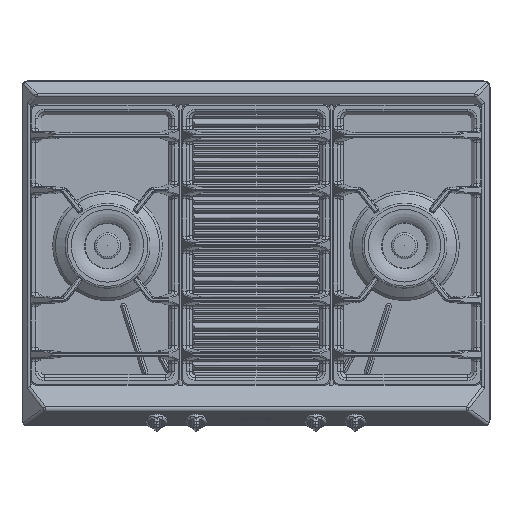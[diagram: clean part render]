
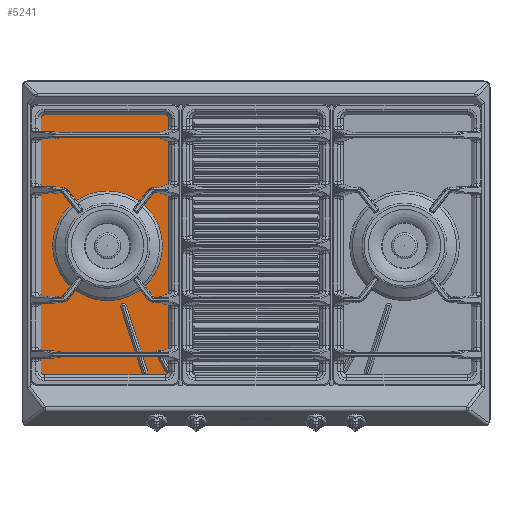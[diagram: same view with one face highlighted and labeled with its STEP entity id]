
A CAD part, top view. The second image highlights one B-rep face of the part: STEP entity #5241.
In plain terms, the highlighted planar face has unit normal (0, 0, 1).
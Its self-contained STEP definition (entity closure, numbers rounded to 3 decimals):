
#5241=ADVANCED_FACE('',(#6247,#6248,#6249,#6250),#5945,.T.);
#5945=PLANE('',#29955);
#6247=FACE_BOUND('',#7720,.T.);
#6248=FACE_BOUND('',#7721,.T.);
#6249=FACE_BOUND('',#7722,.T.);
#6250=FACE_BOUND('',#7723,.T.);
#7720=EDGE_LOOP('',(#14483,#14484,#14485,#14486));
#7721=EDGE_LOOP('',(#14487,#14488,#14489,#14490));
#7722=EDGE_LOOP('',(#14491));
#7723=EDGE_LOOP('',(#14492,#14493,#14494,#14495));
#14483=ORIENTED_EDGE('',*,*,#21647,.T.);
#14484=ORIENTED_EDGE('',*,*,#21637,.T.);
#14485=ORIENTED_EDGE('',*,*,#21641,.T.);
#14486=ORIENTED_EDGE('',*,*,#21644,.T.);
#14487=ORIENTED_EDGE('',*,*,#21661,.F.);
#14488=ORIENTED_EDGE('',*,*,#21662,.T.);
#14489=ORIENTED_EDGE('',*,*,#21663,.T.);
#14490=ORIENTED_EDGE('',*,*,#21664,.F.);
#14491=ORIENTED_EDGE('',*,*,#21665,.F.);
#14492=ORIENTED_EDGE('',*,*,#21649,.F.);
#14493=ORIENTED_EDGE('',*,*,#21659,.F.);
#14494=ORIENTED_EDGE('',*,*,#21656,.F.);
#14495=ORIENTED_EDGE('',*,*,#21653,.F.);
#17937=VERTEX_POINT('',#49838);
#17938=VERTEX_POINT('',#49839);
#17941=VERTEX_POINT('',#49847);
#17943=VERTEX_POINT('',#49853);
#17945=VERTEX_POINT('',#49863);
#17946=VERTEX_POINT('',#49864);
#17949=VERTEX_POINT('',#49872);
#17951=VERTEX_POINT('',#49878);
#17953=VERTEX_POINT('',#49888);
#17954=VERTEX_POINT('',#49889);
#17955=VERTEX_POINT('',#49891);
#17956=VERTEX_POINT('',#49893);
#17957=VERTEX_POINT('',#49896);
#21637=EDGE_CURVE('',#17937,#17938,#25021,.T.);
#21641=EDGE_CURVE('',#17938,#17941,#23379,.T.);
#21644=EDGE_CURVE('',#17941,#17943,#25026,.T.);
#21647=EDGE_CURVE('',#17943,#17937,#23381,.T.);
#21649=EDGE_CURVE('',#17945,#17946,#23383,.T.);
#21653=EDGE_CURVE('',#17946,#17949,#25031,.T.);
#21656=EDGE_CURVE('',#17949,#17951,#23385,.T.);
#21659=EDGE_CURVE('',#17951,#17945,#25035,.T.);
#21661=EDGE_CURVE('',#17953,#17954,#25037,.T.);
#21662=EDGE_CURVE('',#17953,#17955,#25038,.T.);
#21663=EDGE_CURVE('',#17955,#17956,#25039,.T.);
#21664=EDGE_CURVE('',#17954,#17956,#25040,.T.);
#21665=EDGE_CURVE('',#17957,#17957,#23387,.T.);
#23379=CIRCLE('',#29937,4.2);
#23381=CIRCLE('',#29941,4.2);
#23383=CIRCLE('',#29945,4.2);
#23385=CIRCLE('',#29949,4.2);
#23387=CIRCLE('',#29954,80.);
#25021=LINE('',#49837,#26870);
#25026=LINE('',#49852,#26875);
#25031=LINE('',#49871,#26880);
#25035=LINE('',#49883,#26884);
#25037=LINE('',#49887,#26886);
#25038=LINE('',#49890,#26887);
#25039=LINE('',#49892,#26888);
#25040=LINE('',#49894,#26889);
#26870=VECTOR('',#37287,1.);
#26875=VECTOR('',#37300,1.);
#26880=VECTOR('',#37321,1.);
#26884=VECTOR('',#37333,1.);
#26886=VECTOR('',#37339,1.);
#26887=VECTOR('',#37340,1.);
#26888=VECTOR('',#37341,1.);
#26889=VECTOR('',#37342,1.);
#29937=AXIS2_PLACEMENT_3D('',#49846,#37293,#37294);
#29941=AXIS2_PLACEMENT_3D('',#49858,#37305,#37306);
#29945=AXIS2_PLACEMENT_3D('',#49862,#37313,#37314);
#29949=AXIS2_PLACEMENT_3D('',#49877,#37326,#37327);
#29954=AXIS2_PLACEMENT_3D('',#49895,#37343,#37344);
#29955=AXIS2_PLACEMENT_3D('',#49897,#37345,#37346);
#37287=DIRECTION('',(-0.485,0.875,0.));
#37293=DIRECTION('',(0.,0.,-1.));
#37294=DIRECTION('',(1.,0.,0.));
#37300=DIRECTION('',(0.485,-0.875,0.));
#37305=DIRECTION('',(0.,0.,-1.));
#37306=DIRECTION('',(1.,0.,0.));
#37313=DIRECTION('',(0.,0.,1.));
#37314=DIRECTION('',(1.,0.,0.));
#37321=DIRECTION('',(0.309,-0.951,0.));
#37326=DIRECTION('',(0.,0.,1.));
#37327=DIRECTION('',(1.,0.,0.));
#37333=DIRECTION('',(-0.309,0.951,0.));
#37339=DIRECTION('',(0.,-1.,0.));
#37340=DIRECTION('',(-1.,0.,0.));
#37341=DIRECTION('',(0.,-1.,0.));
#37342=DIRECTION('',(-1.,0.,0.));
#37343=DIRECTION('',(0.,0.,1.));
#37344=DIRECTION('',(1.,0.,0.));
#37345=DIRECTION('',(0.,0.,1.));
#37346=DIRECTION('',(1.,0.,0.));
#49837=CARTESIAN_POINT('',(-139.564,77.715,57.866));
#49838=CARTESIAN_POINT('',(-139.564,77.715,57.866));
#49839=CARTESIAN_POINT('',(-152.702,101.417,57.866));
#49846=CARTESIAN_POINT('',(-149.029,103.453,57.866));
#49847=CARTESIAN_POINT('',(-145.355,105.489,57.866));
#49852=CARTESIAN_POINT('',(-145.355,105.489,57.866));
#49853=CARTESIAN_POINT('',(-132.217,81.787,57.866));
#49858=CARTESIAN_POINT('',(-135.89,79.751,57.866));
#49862=CARTESIAN_POINT('',(-200.927,172.502,57.866));
#49863=CARTESIAN_POINT('',(-196.932,173.8,57.866));
#49864=CARTESIAN_POINT('',(-204.921,171.204,57.866));
#49871=CARTESIAN_POINT('',(-204.921,171.204,57.866));
#49872=CARTESIAN_POINT('',(-173.485,74.453,57.866));
#49877=CARTESIAN_POINT('',(-169.49,75.751,57.866));
#49878=CARTESIAN_POINT('',(-165.496,77.049,57.866));
#49883=CARTESIAN_POINT('',(-165.496,77.049,57.866));
#49887=CARTESIAN_POINT('',(-124.706,481.029,57.866));
#49888=CARTESIAN_POINT('',(-124.706,460.637,57.866));
#49889=CARTESIAN_POINT('',(-124.706,63.351,57.866));
#49890=CARTESIAN_POINT('',(-348.99,460.637,57.866));
#49891=CARTESIAN_POINT('',(-331.505,460.637,57.866));
#49892=CARTESIAN_POINT('',(-331.505,29.529,57.866));
#49893=CARTESIAN_POINT('',(-331.505,63.351,57.866));
#49894=CARTESIAN_POINT('',(-348.99,63.351,57.866));
#49895=CARTESIAN_POINT('',(-224.19,260.569,57.866));
#49896=CARTESIAN_POINT('',(-144.19,260.569,57.866));
#49897=CARTESIAN_POINT('',(-348.99,-2.221,57.866));
